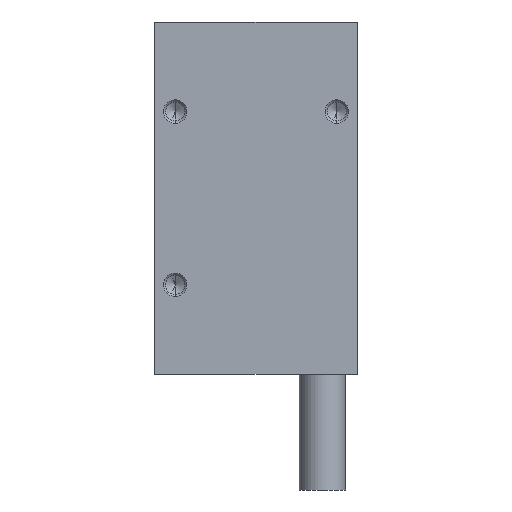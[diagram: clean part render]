
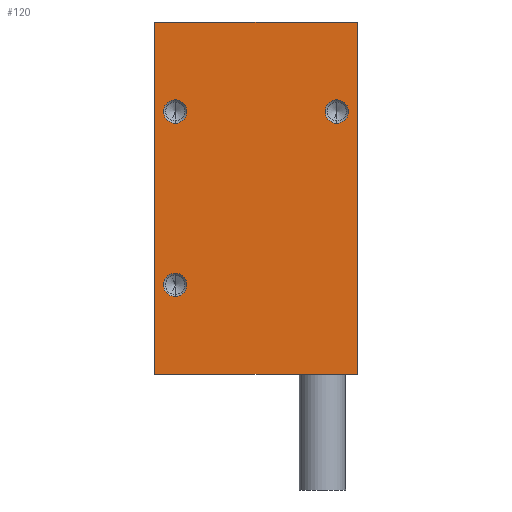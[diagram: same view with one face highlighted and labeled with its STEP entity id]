
A CAD part, front view. The second image highlights one B-rep face of the part: STEP entity #120.
In plain terms, the highlighted planar face has unit normal (0, -1, 0).
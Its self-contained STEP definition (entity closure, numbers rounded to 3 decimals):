
#25 = CARTESIAN_POINT ( 'NONE',  ( 14., 0., 45.5 ) ) ;
#29 = AXIS2_PLACEMENT_3D ( 'NONE', #404, #221, #481 ) ;
#31 = DIRECTION ( 'NONE',  ( 1., 0., 0. ) ) ;
#40 = CIRCLE ( 'NONE', #29, 2.025 ) ;
#72 = ORIENTED_EDGE ( 'NONE', *, *, #80, .F. ) ;
#77 = DIRECTION ( 'NONE',  ( 0., 0., -1. ) ) ;
#80 = EDGE_CURVE ( 'NONE', #948, #505, #877, .T. ) ;
#87 = VERTEX_POINT ( 'NONE', #357 ) ;
#90 = CIRCLE ( 'NONE', #682, 2.025 ) ;
#93 = DIRECTION ( 'NONE',  ( 1., 0., 0. ) ) ;
#102 = LINE ( 'NONE', #459, #302 ) ;
#105 = ORIENTED_EDGE ( 'NONE', *, *, #268, .F. ) ;
#113 = EDGE_LOOP ( 'NONE', ( #572, #105 ) ) ;
#120 = ADVANCED_FACE ( 'NONE', ( #388, #465, #832, #155 ), #724, .F. ) ;
#129 = EDGE_CURVE ( 'NONE', #505, #391, #102, .T. ) ;
#133 = DIRECTION ( 'NONE',  ( 0., 0., -1. ) ) ;
#137 = AXIS2_PLACEMENT_3D ( 'NONE', #146, #396, #133 ) ;
#142 = ORIENTED_EDGE ( 'NONE', *, *, #477, .T. ) ;
#146 = CARTESIAN_POINT ( 'NONE',  ( 14., 0., 45.5 ) ) ;
#151 = CARTESIAN_POINT ( 'NONE',  ( -17.5, 0., 61. ) ) ;
#154 = EDGE_CURVE ( 'NONE', #795, #1098, #739, .T. ) ;
#155 = FACE_OUTER_BOUND ( 'NONE', #755, .T. ) ;
#166 = CIRCLE ( 'NONE', #256, 2.025 ) ;
#202 = CIRCLE ( 'NONE', #137, 2.025 ) ;
#203 = DIRECTION ( 'NONE',  ( 0., 0., -1. ) ) ;
#217 = DIRECTION ( 'NONE',  ( 0., 0., 1. ) ) ;
#219 = AXIS2_PLACEMENT_3D ( 'NONE', #928, #517, #853 ) ;
#221 = DIRECTION ( 'NONE',  ( 0., -1., 0. ) ) ;
#246 = CARTESIAN_POINT ( 'NONE',  ( -14., 0., 15.5 ) ) ;
#256 = AXIS2_PLACEMENT_3D ( 'NONE', #246, #491, #77 ) ;
#268 = EDGE_CURVE ( 'NONE', #675, #87, #40, .T. ) ;
#288 = VECTOR ( 'NONE', #820, 1000. ) ;
#302 = VECTOR ( 'NONE', #203, 1000. ) ;
#306 = CARTESIAN_POINT ( 'NONE',  ( -17.5, 0., 61. ) ) ;
#341 = CARTESIAN_POINT ( 'NONE',  ( 14., 0., 43.475 ) ) ;
#342 = LINE ( 'NONE', #151, #288 ) ;
#347 = CIRCLE ( 'NONE', #219, 2.025 ) ;
#357 = CARTESIAN_POINT ( 'NONE',  ( -14., 0., 13.475 ) ) ;
#378 = CARTESIAN_POINT ( 'NONE',  ( 17.5, 0., 0. ) ) ;
#388 = FACE_BOUND ( 'NONE', #1035, .T. ) ;
#391 = VERTEX_POINT ( 'NONE', #899 ) ;
#396 = DIRECTION ( 'NONE',  ( 0., -1., 0. ) ) ;
#404 = CARTESIAN_POINT ( 'NONE',  ( -14., 0., 15.5 ) ) ;
#407 = DIRECTION ( 'NONE',  ( 0., -1., 0. ) ) ;
#412 = CARTESIAN_POINT ( 'NONE',  ( -14., 0., 45.5 ) ) ;
#444 = LINE ( 'NONE', #378, #857 ) ;
#455 = CARTESIAN_POINT ( 'NONE',  ( -14., 0., 17.525 ) ) ;
#459 = CARTESIAN_POINT ( 'NONE',  ( 17.5, 0., 61. ) ) ;
#465 = FACE_BOUND ( 'NONE', #588, .T. ) ;
#477 = EDGE_CURVE ( 'NONE', #948, #768, #342, .T. ) ;
#478 = VERTEX_POINT ( 'NONE', #671 ) ;
#481 = DIRECTION ( 'NONE',  ( 0., 0., -1. ) ) ;
#490 = ORIENTED_EDGE ( 'NONE', *, *, #871, .T. ) ;
#491 = DIRECTION ( 'NONE',  ( 0., -1., 0. ) ) ;
#493 = ORIENTED_EDGE ( 'NONE', *, *, #952, .F. ) ;
#494 = AXIS2_PLACEMENT_3D ( 'NONE', #25, #803, #1045 ) ;
#505 = VERTEX_POINT ( 'NONE', #915 ) ;
#508 = EDGE_CURVE ( 'NONE', #87, #675, #166, .T. ) ;
#517 = DIRECTION ( 'NONE',  ( 0., -1., 0. ) ) ;
#572 = ORIENTED_EDGE ( 'NONE', *, *, #508, .F. ) ;
#578 = DIRECTION ( 'NONE',  ( 0., 0., -1. ) ) ;
#588 = EDGE_LOOP ( 'NONE', ( #770, #834 ) ) ;
#607 = CARTESIAN_POINT ( 'NONE',  ( 17.5, 0., 61. ) ) ;
#610 = CARTESIAN_POINT ( 'NONE',  ( -17.5, 0., 0. ) ) ;
#641 = CARTESIAN_POINT ( 'NONE',  ( 17.5, 0., 61. ) ) ;
#644 = ORIENTED_EDGE ( 'NONE', *, *, #129, .F. ) ;
#666 = VECTOR ( 'NONE', #93, 1000. ) ;
#671 = CARTESIAN_POINT ( 'NONE',  ( -14., 0., 43.475 ) ) ;
#675 = VERTEX_POINT ( 'NONE', #455 ) ;
#682 = AXIS2_PLACEMENT_3D ( 'NONE', #412, #407, #578 ) ;
#724 = PLANE ( 'NONE',  #865 ) ;
#739 = CIRCLE ( 'NONE', #494, 2.025 ) ;
#741 = ORIENTED_EDGE ( 'NONE', *, *, #154, .F. ) ;
#755 = EDGE_LOOP ( 'NONE', ( #490, #644, #72, #142 ) ) ;
#762 = CARTESIAN_POINT ( 'NONE',  ( -14., 0., 47.525 ) ) ;
#768 = VERTEX_POINT ( 'NONE', #610 ) ;
#770 = ORIENTED_EDGE ( 'NONE', *, *, #1095, .F. ) ;
#795 = VERTEX_POINT ( 'NONE', #806 ) ;
#803 = DIRECTION ( 'NONE',  ( 0., -1., 0. ) ) ;
#806 = CARTESIAN_POINT ( 'NONE',  ( 14., 0., 47.525 ) ) ;
#820 = DIRECTION ( 'NONE',  ( 0., 0., -1. ) ) ;
#832 = FACE_BOUND ( 'NONE', #113, .T. ) ;
#834 = ORIENTED_EDGE ( 'NONE', *, *, #891, .F. ) ;
#853 = DIRECTION ( 'NONE',  ( 0., 0., -1. ) ) ;
#857 = VECTOR ( 'NONE', #31, 1000. ) ;
#865 = AXIS2_PLACEMENT_3D ( 'NONE', #641, #968, #217 ) ;
#871 = EDGE_CURVE ( 'NONE', #768, #391, #444, .T. ) ;
#877 = LINE ( 'NONE', #607, #666 ) ;
#891 = EDGE_CURVE ( 'NONE', #999, #478, #90, .T. ) ;
#899 = CARTESIAN_POINT ( 'NONE',  ( 17.5, 0., 0. ) ) ;
#915 = CARTESIAN_POINT ( 'NONE',  ( 17.5, 0., 61. ) ) ;
#928 = CARTESIAN_POINT ( 'NONE',  ( -14., 0., 45.5 ) ) ;
#948 = VERTEX_POINT ( 'NONE', #306 ) ;
#952 = EDGE_CURVE ( 'NONE', #1098, #795, #202, .T. ) ;
#968 = DIRECTION ( 'NONE',  ( 0., 1., 0. ) ) ;
#999 = VERTEX_POINT ( 'NONE', #762 ) ;
#1035 = EDGE_LOOP ( 'NONE', ( #493, #741 ) ) ;
#1045 = DIRECTION ( 'NONE',  ( 0., 0., -1. ) ) ;
#1095 = EDGE_CURVE ( 'NONE', #478, #999, #347, .T. ) ;
#1098 = VERTEX_POINT ( 'NONE', #341 ) ;
